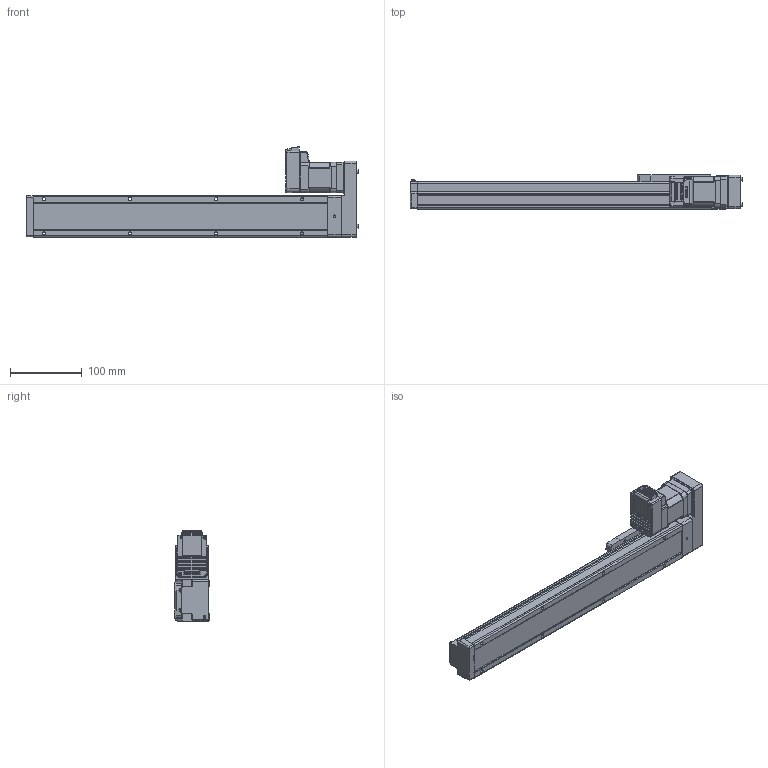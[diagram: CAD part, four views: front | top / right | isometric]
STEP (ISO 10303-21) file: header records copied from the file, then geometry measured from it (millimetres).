
FILE_DESCRIPTION (( 'STEP AP214' ), '1' );
FILE_NAME ('LEFS3(+)-25LNM1□-300-17L.STEP', '2023-05-31T05:06:17', ( '' ), ( '' ), 'SwSTEP 2.0', 'SolidWorks 2019', '' );
FILE_SCHEMA (( 'AUTOMOTIVE_DESIGN' ));
Length unit declared in the file: millimetre
Products named in the file (5): CM3(+)-17L50A; LEFS3(+)-25R(L)NM1仩_MOTOR Flange; LEFS3(+)-25NM1_TABLE; LEFS3(+)-25R(L)NM1仩_BODY_300; LEFS3(+)-25LNM1□-300-17L
Assembly tree (4 placements, depth 2):
  LEFS3(+)-25LNM1□-300-17L
    LEFS3(+)-25R(L)NM1仩_BODY_300
    LEFS3(+)-25NM1_TABLE
    LEFS3(+)-25R(L)NM1仩_MOTOR Flange
    CM3(+)-17L50A
Bounding box: 462.9 x 48 x 125.85 mm (x, y, z)
Volume: 1115438.8 mm3; surface area: 153142.2 mm2
Topology: 5 solids, 5 shells, 1019 faces, 2620 edges, 1652 vertices
Faces by surface type: plane 529, cylinder 318, cone 83, torus 39, bspline 29, sphere 21
Entity records: 41661 total; most frequent: CARTESIAN_POINT 7482, ORIENTED_EDGE 5178, DIRECTION 5000, EDGE_CURVE 2589, AXIS2_PLACEMENT_3D 1682, VERTEX_POINT 1652, VECTOR 1636, LINE 1636
